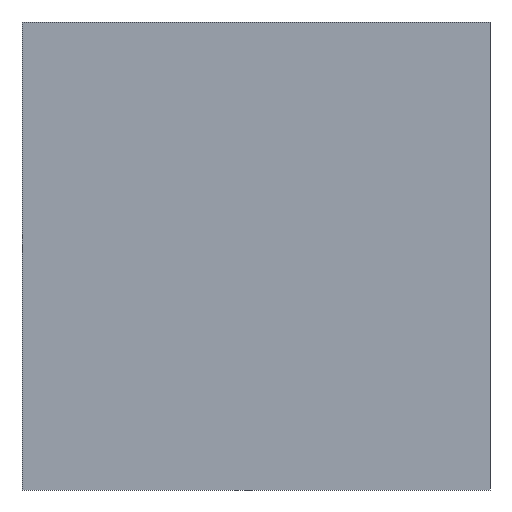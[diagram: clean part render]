
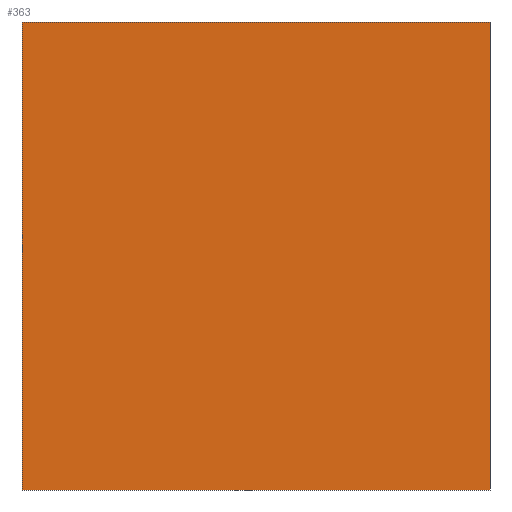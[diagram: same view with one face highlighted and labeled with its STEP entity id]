
A CAD part, front view. The second image highlights one B-rep face of the part: STEP entity #363.
In plain terms, the highlighted planar face has unit normal (0, -1, 0).
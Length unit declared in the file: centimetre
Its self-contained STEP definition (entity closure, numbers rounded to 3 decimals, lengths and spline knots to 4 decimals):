
#9 = CARTESIAN_POINT ( 'NONE',  ( 0., 0., 1000. ) ) ;
#12 = DIRECTION ( 'NONE',  ( 0., 0., 1. ) ) ;
#21 = EDGE_CURVE ( 'NONE', #358, #397, #268, .T. ) ;
#39 = AXIS2_PLACEMENT_3D ( 'NONE', #241, #103, #12 ) ;
#49 = DIRECTION ( 'NONE',  ( 0., 0., -1. ) ) ;
#53 = EDGE_CURVE ( 'NONE', #397, #330, #147, .T. ) ;
#66 = VERTEX_POINT ( 'NONE', #353 ) ;
#67 = LINE ( 'NONE', #69, #257 ) ;
#69 = CARTESIAN_POINT ( 'NONE',  ( 1000., 0., 1000. ) ) ;
#83 = DIRECTION ( 'NONE',  ( 1., 0., 0. ) ) ;
#95 = CARTESIAN_POINT ( 'NONE',  ( 0., 0., 1000. ) ) ;
#103 = DIRECTION ( 'NONE',  ( 0., 1., 0. ) ) ;
#119 = VECTOR ( 'NONE', #83, 100. ) ;
#147 = LINE ( 'NONE', #280, #119 ) ;
#194 = VECTOR ( 'NONE', #49, 100. ) ;
#195 = ORIENTED_EDGE ( 'NONE', *, *, #351, .F. ) ;
#208 = DIRECTION ( 'NONE',  ( 0., 0., -1. ) ) ;
#221 = ORIENTED_EDGE ( 'NONE', *, *, #53, .T. ) ;
#222 = DIRECTION ( 'NONE',  ( 1., 0., 0. ) ) ;
#241 = CARTESIAN_POINT ( 'NONE',  ( 0., 0., 1000. ) ) ;
#257 = VECTOR ( 'NONE', #208, 100. ) ;
#268 = LINE ( 'NONE', #409, #194 ) ;
#269 = ORIENTED_EDGE ( 'NONE', *, *, #407, .F. ) ;
#273 = FACE_OUTER_BOUND ( 'NONE', #304, .T. ) ;
#276 = PLANE ( 'NONE',  #39 ) ;
#278 = ORIENTED_EDGE ( 'NONE', *, *, #21, .T. ) ;
#280 = CARTESIAN_POINT ( 'NONE',  ( 0., 0., 0. ) ) ;
#301 = CARTESIAN_POINT ( 'NONE',  ( 1000., 0., 0. ) ) ;
#304 = EDGE_LOOP ( 'NONE', ( #221, #269, #195, #278 ) ) ;
#330 = VERTEX_POINT ( 'NONE', #301 ) ;
#351 = EDGE_CURVE ( 'NONE', #358, #66, #393, .T. ) ;
#353 = CARTESIAN_POINT ( 'NONE',  ( 1000., 0., 1000. ) ) ;
#358 = VERTEX_POINT ( 'NONE', #9 ) ;
#363 = ADVANCED_FACE ( 'NONE', ( #273 ), #276, .F. ) ;
#377 = VECTOR ( 'NONE', #222, 100. ) ;
#393 = LINE ( 'NONE', #95, #377 ) ;
#397 = VERTEX_POINT ( 'NONE', #408 ) ;
#407 = EDGE_CURVE ( 'NONE', #66, #330, #67, .T. ) ;
#408 = CARTESIAN_POINT ( 'NONE',  ( 0., 0., 0. ) ) ;
#409 = CARTESIAN_POINT ( 'NONE',  ( 0., 0., 1000. ) ) ;
